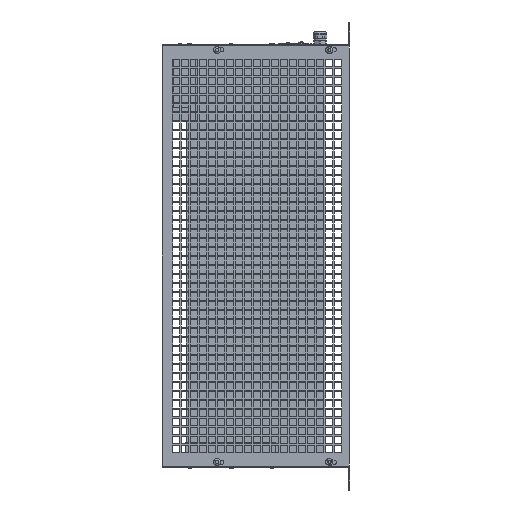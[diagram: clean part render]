
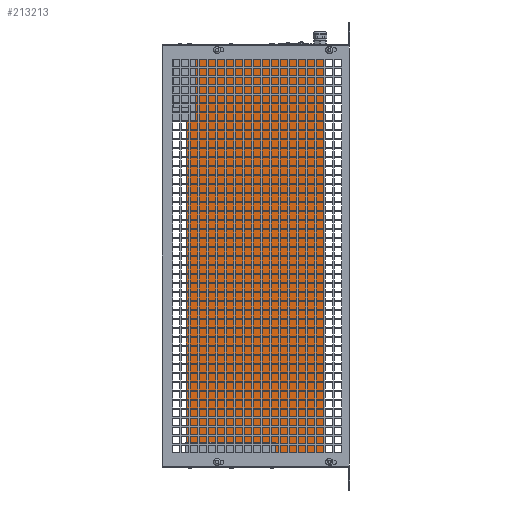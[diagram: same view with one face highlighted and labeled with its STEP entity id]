
A CAD part, left-side view. The second image highlights one B-rep face of the part: STEP entity #213213.
In plain terms, the highlighted planar face has unit normal (-1, 0, 0).
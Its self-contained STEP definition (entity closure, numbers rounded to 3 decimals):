
#4825=PLANE('',#223219);
#14376=FACE_OUTER_BOUND('',#24213,.T.);
#24213=EDGE_LOOP('',(#144926,#144927,#144928,#144929,#144930,#144931,#144932,
#144933,#144934,#144935,#144936,#144937,#144938,#144939));
#38505=LINE('',#283277,#67003);
#38526=LINE('',#283320,#67024);
#38536=LINE('',#283338,#67034);
#38537=LINE('',#283341,#67035);
#38545=LINE('',#283357,#67043);
#38546=LINE('',#283359,#67044);
#38547=LINE('',#283361,#67045);
#38548=LINE('',#283363,#67046);
#38549=LINE('',#283365,#67047);
#38550=LINE('',#283367,#67048);
#38551=LINE('',#283369,#67049);
#38552=LINE('',#283371,#67050);
#38553=LINE('',#283373,#67051);
#38554=LINE('',#283374,#67052);
#67003=VECTOR('',#233797,10.);
#67024=VECTOR('',#233832,10.);
#67034=VECTOR('',#233848,10.);
#67035=VECTOR('',#233851,10.);
#67043=VECTOR('',#233861,10.);
#67044=VECTOR('',#233862,10.);
#67045=VECTOR('',#233863,10.);
#67046=VECTOR('',#233864,10.);
#67047=VECTOR('',#233865,10.);
#67048=VECTOR('',#233866,10.);
#67049=VECTOR('',#233867,10.);
#67050=VECTOR('',#233868,10.);
#67051=VECTOR('',#233869,10.);
#67052=VECTOR('',#233870,10.);
#96133=VERTEX_POINT('',#283274);
#96134=VERTEX_POINT('',#283276);
#96149=VERTEX_POINT('',#283319);
#96154=VERTEX_POINT('',#283336);
#96155=VERTEX_POINT('',#283340);
#96162=VERTEX_POINT('',#283356);
#96163=VERTEX_POINT('',#283358);
#96164=VERTEX_POINT('',#283360);
#96165=VERTEX_POINT('',#283362);
#96166=VERTEX_POINT('',#283364);
#96167=VERTEX_POINT('',#283366);
#96168=VERTEX_POINT('',#283368);
#96169=VERTEX_POINT('',#283370);
#96170=VERTEX_POINT('',#283372);
#115531=EDGE_CURVE('',#96133,#96134,#38505,.T.);
#115552=EDGE_CURVE('',#96149,#96134,#38526,.T.);
#115562=EDGE_CURVE('',#96154,#96149,#38536,.T.);
#115563=EDGE_CURVE('',#96155,#96154,#38537,.T.);
#115571=EDGE_CURVE('',#96162,#96133,#38545,.T.);
#115572=EDGE_CURVE('',#96163,#96162,#38546,.T.);
#115573=EDGE_CURVE('',#96164,#96163,#38547,.T.);
#115574=EDGE_CURVE('',#96165,#96164,#38548,.T.);
#115575=EDGE_CURVE('',#96166,#96165,#38549,.T.);
#115576=EDGE_CURVE('',#96167,#96166,#38550,.T.);
#115577=EDGE_CURVE('',#96168,#96167,#38551,.T.);
#115578=EDGE_CURVE('',#96169,#96168,#38552,.T.);
#115579=EDGE_CURVE('',#96170,#96169,#38553,.T.);
#115580=EDGE_CURVE('',#96155,#96170,#38554,.T.);
#144926=ORIENTED_EDGE('',*,*,#115562,.T.);
#144927=ORIENTED_EDGE('',*,*,#115552,.T.);
#144928=ORIENTED_EDGE('',*,*,#115531,.F.);
#144929=ORIENTED_EDGE('',*,*,#115571,.F.);
#144930=ORIENTED_EDGE('',*,*,#115572,.F.);
#144931=ORIENTED_EDGE('',*,*,#115573,.F.);
#144932=ORIENTED_EDGE('',*,*,#115574,.F.);
#144933=ORIENTED_EDGE('',*,*,#115575,.F.);
#144934=ORIENTED_EDGE('',*,*,#115576,.F.);
#144935=ORIENTED_EDGE('',*,*,#115577,.F.);
#144936=ORIENTED_EDGE('',*,*,#115578,.F.);
#144937=ORIENTED_EDGE('',*,*,#115579,.F.);
#144938=ORIENTED_EDGE('',*,*,#115580,.F.);
#144939=ORIENTED_EDGE('',*,*,#115563,.T.);
#213213=ADVANCED_FACE('',(#14376),#4825,.F.);
#223219=AXIS2_PLACEMENT_3D('',#283355,#233859,#233860);
#233797=DIRECTION('',(0.,1.,0.));
#233832=DIRECTION('',(0.,0.,-1.));
#233848=DIRECTION('',(0.,-1.,0.));
#233851=DIRECTION('',(0.,0.,-1.));
#233859=DIRECTION('center_axis',(1.,0.,0.));
#233860=DIRECTION('ref_axis',(0.,0.,
1.));
#233861=DIRECTION('',(0.,0.,-1.));
#233862=DIRECTION('',(0.,-1.,0.));
#233863=DIRECTION('',(0.,0.,1.));
#233864=DIRECTION('',(0.,-1.,0.));
#233865=DIRECTION('',(0.,0.,-1.));
#233866=DIRECTION('',(0.,-1.,0.));
#233867=DIRECTION('',(0.,0.,1.));
#233868=DIRECTION('',(0.,-1.,0.));
#233869=DIRECTION('',(0.,0.,1.));
#233870=DIRECTION('',(0.,-1.,0.));
#283274=CARTESIAN_POINT('',(-147.928,25.059,-532.5));
#283276=CARTESIAN_POINT('',(-147.928,89.3,-532.5));
#283277=CARTESIAN_POINT('',(-147.928,117.,-532.5));
#283319=CARTESIAN_POINT('',(-147.928,89.3,-511.));
#283320=CARTESIAN_POINT('',(-147.928,89.3,-394.875));
#283336=CARTESIAN_POINT('',(-147.928,208.941,-511.));
#283338=CARTESIAN_POINT('',(-147.928,133.15,-511.));
#283340=CARTESIAN_POINT('',(-147.928,208.941,-83.318));
#283341=CARTESIAN_POINT('',(-147.928,208.941,-262.5));
#283355=CARTESIAN_POINT('Origin',(-147.928,117.,-262.5));
#283356=CARTESIAN_POINT('',(-147.928,25.059,7.5));
#283357=CARTESIAN_POINT('',(-147.928,25.059,-262.5));
#283358=CARTESIAN_POINT('',(-147.928,47.5,7.5));
#283359=CARTESIAN_POINT('',(-147.928,117.,7.5));
#283360=CARTESIAN_POINT('',(-147.928,47.5,2.4));
#283361=CARTESIAN_POINT('',(-147.928,47.5,-126.025));
#283362=CARTESIAN_POINT('',(-147.928,62.5,2.4));
#283363=CARTESIAN_POINT('',(-147.928,86.,2.4));
#283364=CARTESIAN_POINT('',(-147.928,62.5,7.5));
#283365=CARTESIAN_POINT('',(-147.928,62.5,-126.025));
#283366=CARTESIAN_POINT('',(-147.928,196.3,7.5));
#283367=CARTESIAN_POINT('',(-147.928,117.,7.5));
#283368=CARTESIAN_POINT('',(-147.928,196.3,-81.5));
#283369=CARTESIAN_POINT('',(-147.928,196.3,-147.));
#283370=CARTESIAN_POINT('',(-147.928,203.3,-81.5));
#283371=CARTESIAN_POINT('',(-147.928,164.15,-81.5));
#283372=CARTESIAN_POINT('',(-147.928,203.3,-83.318));
#283373=CARTESIAN_POINT('',(-147.928,203.3,-168.));
#283374=CARTESIAN_POINT('',(-147.928,166.9,-83.318));
